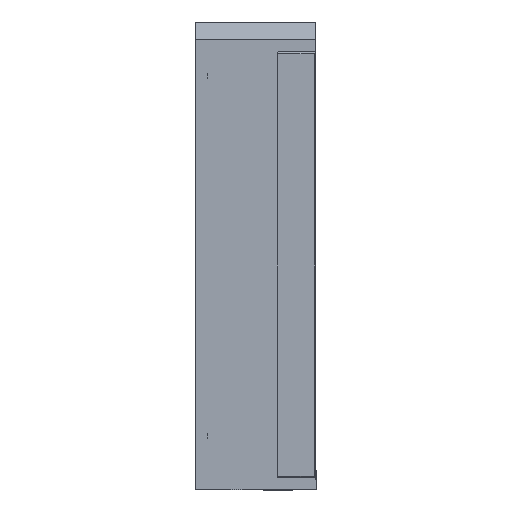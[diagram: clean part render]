
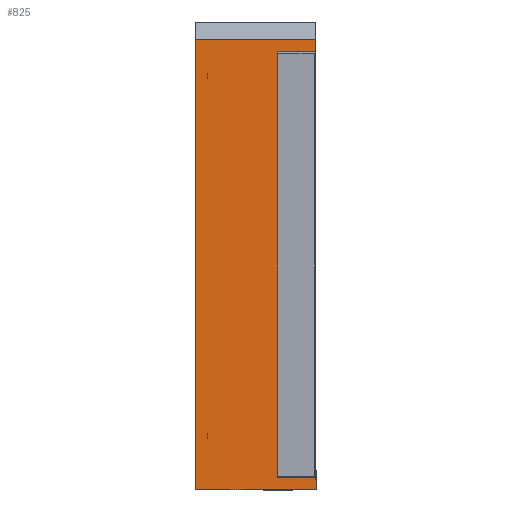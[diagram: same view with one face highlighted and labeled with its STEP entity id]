
A CAD part, left-side view. The second image highlights one B-rep face of the part: STEP entity #825.
In plain terms, the highlighted planar face has unit normal (-1, 0, 0).
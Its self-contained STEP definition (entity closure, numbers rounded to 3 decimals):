
#7 = ORIENTED_EDGE ( 'NONE', *, *, #970, .T. ) ;
#35 = LINE ( 'NONE', #1247, #1199 ) ;
#69 = LINE ( 'NONE', #595, #2151 ) ;
#155 = EDGE_CURVE ( 'NONE', #1787, #2061, #921, .T. ) ;
#209 = CARTESIAN_POINT ( 'NONE',  ( 0., 20., 45. ) ) ;
#214 = CARTESIAN_POINT ( 'NONE',  ( 0., 0., 45. ) ) ;
#222 = DIRECTION ( 'NONE',  ( 0., -1., 0. ) ) ;
#260 = VERTEX_POINT ( 'NONE', #1486 ) ;
#295 = EDGE_LOOP ( 'NONE', ( #687, #1966, #1732, #1553, #7, #1012, #1287, #1753 ) ) ;
#300 = VECTOR ( 'NONE', #301, 1000. ) ;
#301 = DIRECTION ( 'NONE',  ( 0., 0., 1. ) ) ;
#306 = EDGE_CURVE ( 'NONE', #982, #522, #2032, .T. ) ;
#320 = VECTOR ( 'NONE', #1746, 1000. ) ;
#397 = CARTESIAN_POINT ( 'NONE',  ( 0., 0., 43. ) ) ;
#514 = LINE ( 'NONE', #1716, #597 ) ;
#522 = VERTEX_POINT ( 'NONE', #1248 ) ;
#591 = VERTEX_POINT ( 'NONE', #397 ) ;
#595 = CARTESIAN_POINT ( 'NONE',  ( 0., 20., 48. ) ) ;
#597 = VECTOR ( 'NONE', #891, 1000. ) ;
#644 = DIRECTION ( 'NONE',  ( 1., 0., 0. ) ) ;
#687 = ORIENTED_EDGE ( 'NONE', *, *, #306, .T. ) ;
#719 = CARTESIAN_POINT ( 'NONE',  ( 0., 0., -30. ) ) ;
#825 = ADVANCED_FACE ( 'NONE', ( #1513 ), #1042, .F. ) ;
#830 = VECTOR ( 'NONE', #2267, 1000. ) ;
#834 = LINE ( 'NONE', #2256, #830 ) ;
#891 = DIRECTION ( 'NONE',  ( 0., 0., -1. ) ) ;
#921 = LINE ( 'NONE', #1282, #1615 ) ;
#970 = EDGE_CURVE ( 'NONE', #2068, #260, #69, .T. ) ;
#982 = VERTEX_POINT ( 'NONE', #1302 ) ;
#1012 = ORIENTED_EDGE ( 'NONE', *, *, #2095, .F. ) ;
#1042 = PLANE ( 'NONE',  #1626 ) ;
#1097 = CARTESIAN_POINT ( 'NONE',  ( 0., 0., -28. ) ) ;
#1145 = EDGE_CURVE ( 'NONE', #1243, #591, #514, .T. ) ;
#1199 = VECTOR ( 'NONE', #1934, 1000. ) ;
#1224 = LINE ( 'NONE', #1918, #320 ) ;
#1243 = VERTEX_POINT ( 'NONE', #214 ) ;
#1247 = CARTESIAN_POINT ( 'NONE',  ( 0., 0., -30. ) ) ;
#1248 = CARTESIAN_POINT ( 'NONE',  ( 0., 4.841, 43. ) ) ;
#1258 = LINE ( 'NONE', #1097, #2201 ) ;
#1282 = CARTESIAN_POINT ( 'NONE',  ( 0., 0., 48. ) ) ;
#1287 = ORIENTED_EDGE ( 'NONE', *, *, #155, .F. ) ;
#1302 = CARTESIAN_POINT ( 'NONE',  ( 0., 4.841, -28. ) ) ;
#1305 = CARTESIAN_POINT ( 'NONE',  ( 0., 0., -28. ) ) ;
#1343 = DIRECTION ( 'NONE',  ( 0., 1., 0. ) ) ;
#1486 = CARTESIAN_POINT ( 'NONE',  ( 0., 20., -30. ) ) ;
#1513 = FACE_OUTER_BOUND ( 'NONE', #295, .T. ) ;
#1553 = ORIENTED_EDGE ( 'NONE', *, *, #1924, .T. ) ;
#1615 = VECTOR ( 'NONE', #1951, 1000. ) ;
#1626 = AXIS2_PLACEMENT_3D ( 'NONE', #2230, #644, #1343 ) ;
#1632 = DIRECTION ( 'NONE',  ( 0., 0., -1. ) ) ;
#1716 = CARTESIAN_POINT ( 'NONE',  ( 0., 0., 48. ) ) ;
#1732 = ORIENTED_EDGE ( 'NONE', *, *, #1145, .F. ) ;
#1746 = DIRECTION ( 'NONE',  ( 0., 1., 0. ) ) ;
#1753 = ORIENTED_EDGE ( 'NONE', *, *, #2050, .F. ) ;
#1787 = VERTEX_POINT ( 'NONE', #1305 ) ;
#1835 = CARTESIAN_POINT ( 'NONE',  ( 0., 4.841, 43. ) ) ;
#1918 = CARTESIAN_POINT ( 'NONE',  ( 0., 0., 43. ) ) ;
#1924 = EDGE_CURVE ( 'NONE', #1243, #2068, #834, .T. ) ;
#1934 = DIRECTION ( 'NONE',  ( 0., 1., 0. ) ) ;
#1951 = DIRECTION ( 'NONE',  ( 0., 0., -1. ) ) ;
#1966 = ORIENTED_EDGE ( 'NONE', *, *, #2004, .F. ) ;
#2004 = EDGE_CURVE ( 'NONE', #591, #522, #1224, .T. ) ;
#2032 = LINE ( 'NONE', #1835, #300 ) ;
#2050 = EDGE_CURVE ( 'NONE', #982, #1787, #1258, .T. ) ;
#2061 = VERTEX_POINT ( 'NONE', #719 ) ;
#2068 = VERTEX_POINT ( 'NONE', #209 ) ;
#2095 = EDGE_CURVE ( 'NONE', #2061, #260, #35, .T. ) ;
#2151 = VECTOR ( 'NONE', #1632, 1000. ) ;
#2201 = VECTOR ( 'NONE', #222, 1000. ) ;
#2230 = CARTESIAN_POINT ( 'NONE',  ( 0., 20., 48. ) ) ;
#2256 = CARTESIAN_POINT ( 'NONE',  ( 0., 20., 45. ) ) ;
#2267 = DIRECTION ( 'NONE',  ( 0., 1., 0. ) ) ;
